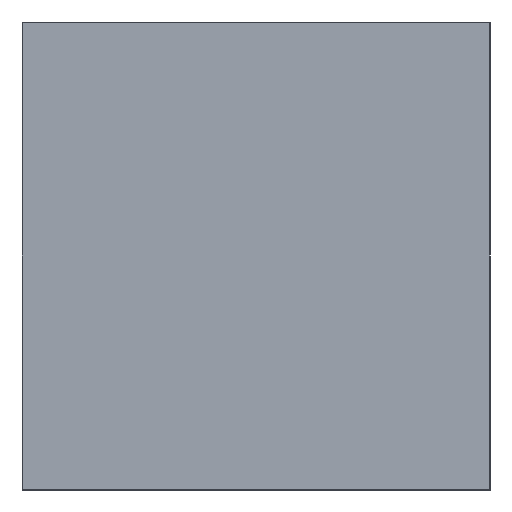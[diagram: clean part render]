
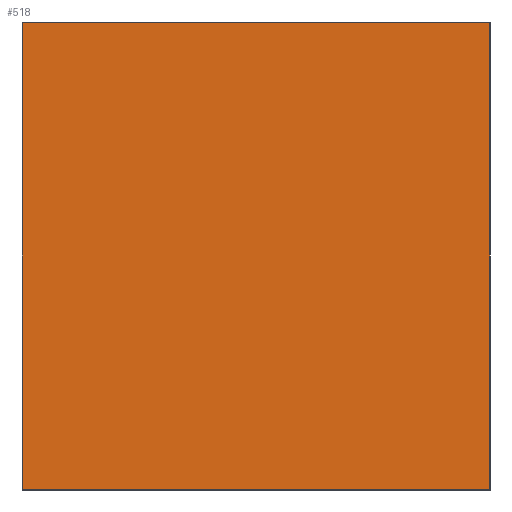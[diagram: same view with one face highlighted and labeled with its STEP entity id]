
A CAD part, left-side view. The second image highlights one B-rep face of the part: STEP entity #518.
In plain terms, the highlighted planar face has unit normal (-1, 0, 0).
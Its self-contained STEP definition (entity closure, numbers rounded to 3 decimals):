
#20=PLANE('',#567);
#40=LINE('',#751,#96);
#43=LINE('',#776,#99);
#46=LINE('',#780,#102);
#55=LINE('',#804,#111);
#96=VECTOR('',#601,499.);
#99=VECTOR('',#628,499.);
#102=VECTOR('',#633,498.);
#111=VECTOR('',#662,498.);
#171=FACE_OUTER_BOUND('',#202,.T.);
#202=EDGE_LOOP('',(#402,#403,#404,#405));
#242=VERTEX_POINT('',#740);
#245=VERTEX_POINT('',#747);
#254=VERTEX_POINT('',#769);
#256=VERTEX_POINT('',#774);
#291=EDGE_CURVE('',#242,#245,#40,.T.);
#302=EDGE_CURVE('',#256,#254,#43,.T.);
#305=EDGE_CURVE('',#254,#242,#46,.T.);
#318=EDGE_CURVE('',#256,#245,#55,.T.);
#402=ORIENTED_EDGE('',*,*,#291,.F.);
#403=ORIENTED_EDGE('',*,*,#305,.F.);
#404=ORIENTED_EDGE('',*,*,#302,.F.);
#405=ORIENTED_EDGE('',*,*,#318,.T.);
#518=ADVANCED_FACE('',(#171),#20,.T.);
#567=AXIS2_PLACEMENT_3D('',#803,#660,#661);
#601=DIRECTION('',(0.,-1.,0.));
#628=DIRECTION('',(0.,1.,0.));
#633=DIRECTION('',(0.,0.,1.));
#660=DIRECTION('center_axis',(-1.,0.,0.));
#661=DIRECTION('ref_axis',(0.,0.,1.));
#662=DIRECTION('',(0.,0.,1.));
#740=CARTESIAN_POINT('',(0.,499.,-1.));
#747=CARTESIAN_POINT('',(0.,0.,-1.));
#751=CARTESIAN_POINT('',(0.,0.,-1.));
#769=CARTESIAN_POINT('',(0.,499.,-499.));
#774=CARTESIAN_POINT('',(0.,0.,-499.));
#776=CARTESIAN_POINT('',(0.,0.,-499.));
#780=CARTESIAN_POINT('',(0.,499.,-375.));
#803=CARTESIAN_POINT('Origin',(0.,0.,-500.));
#804=CARTESIAN_POINT('',(0.,0.,-500.));
